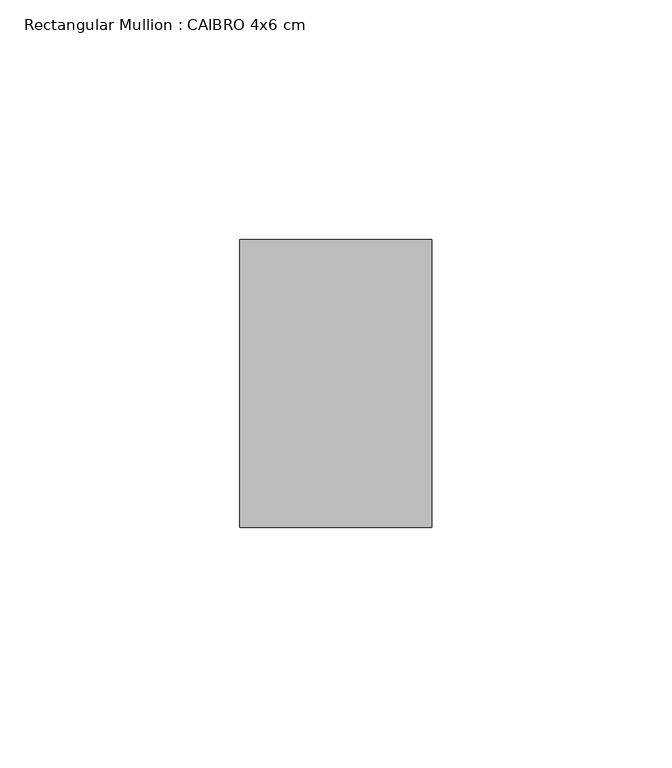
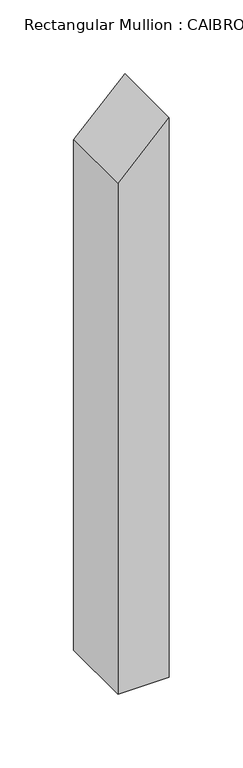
"""IFC4 building model written with IfcOpenShell, lengths in millimetres: member geometry, Rectangular Mullion : CAIBRO 4x6 cm."""

import ifcopenshell
import ifcopenshell.guid

model = None  # the IFC model being written
_history = None  # IfcOwnerHistory: only IFC2X3 demands one
_inside = {}  # id of a spatial element -> (the spatial element, [elements in it])
_under = {}  # id of a project, library or spatial element -> (it, [spatial elements below it])
_declared = {}  # id of a project -> (the project, [libraries it declares])
_typed = {}  # id of a type object -> (the type object, [elements of that type])
_made_of = {}  # id of a material, layer set ... -> (it, [elements and type objects made of it])


def new_model(schema):
    """Start an empty IFC model of exactly this schema.

    Asked for "IFC4X3", IfcOpenShell would pick the latest addendum, in which some entities
    have other attributes; the version numbers below select the first issue.
    IFC2X3 requires an IfcOwnerHistory on every rooted entity: one is made here for all.
    """
    global model, _history
    if schema == "IFC4X3":
        model = ifcopenshell.file(schema_version=(4, 3, 0, 0))
    else:
        model = ifcopenshell.file(schema=schema)
    _inside.clear()
    _under.clear()
    _declared.clear()
    _typed.clear()
    _made_of.clear()
    _history = None
    if model.schema == "IFC2X3":
        org = make("IfcOrganization", Name="unknown")
        user = make(
            "IfcPersonAndOrganization",
            ThePerson=make("IfcPerson", FamilyName="unknown"),
            TheOrganization=org,
        )
        app = make(
            "IfcApplication",
            ApplicationDeveloper=org,
            Version="unknown",
            ApplicationFullName="unknown",
            ApplicationIdentifier="unknown",
        )
        _history = make(
            "IfcOwnerHistory",
            OwningUser=user,
            OwningApplication=app,
            ChangeAction="ADDED",
            CreationDate=0,
        )
    return model


def make(cls, **values):
    """One entity of the class cls with the attributes given. An attribute that is None is left unset."""
    return model.create_entity(
        cls, **{name: value for name, value in values.items() if value is not None}
    )


def rooted(cls, **values):
    """An entity with a GlobalId (a new one), such as an element, a storey or a relation."""
    return make(cls, GlobalId=ifcopenshell.guid.new(), OwnerHistory=_history, **values)


def si_unit(unit_type, name, prefix=None):
    """IfcSIUnit, for example si_unit("LENGTHUNIT", "METRE", prefix="MILLI")."""
    return make("IfcSIUnit", UnitType=unit_type, Prefix=prefix, Name=name)


def assignment(units):
    """IfcUnitAssignment: the units of a project."""
    return None if units is None else make("IfcUnitAssignment", Units=units)


def point(xyz):
    """IfcCartesianPoint."""
    return None if xyz is None else make("IfcCartesianPoint", Coordinates=xyz)


def direction(xyz):
    """IfcDirection."""
    return None if xyz is None else make("IfcDirection", DirectionRatios=xyz)


def frame(location, z_axis=None, x_axis=None):
    """IfcAxis2Placement3D, a coordinate frame: its origin and axes. An axis left out is left unset."""
    return make(
        "IfcAxis2Placement3D",
        Location=point(location),
        Axis=direction(z_axis),
        RefDirection=direction(x_axis),
    )


def origin():
    """The frame at (0, 0, 0) with its axes left unset."""
    return frame((0.0, 0.0, 0.0))


def place(relative_to, where):
    """IfcLocalPlacement: puts the frame where relative to a parent placement (None: the world)."""
    return make(
        "IfcLocalPlacement", PlacementRelTo=relative_to, RelativePlacement=where
    )


def context(
    kind, dimensions, precision=None, world=None, true_north=None, identifier=None
):
    """IfcGeometricRepresentationContext, for example the 3D "Model" context."""
    return make(
        "IfcGeometricRepresentationContext",
        ContextIdentifier=identifier,
        ContextType=kind,
        CoordinateSpaceDimension=dimensions,
        Precision=precision,
        WorldCoordinateSystem=world,
        TrueNorth=true_north,
    )


def project(units=None, contexts=None):
    """IfcProject with its units and contexts."""
    return rooted(
        "IfcProject",
        Name="project",
        RepresentationContexts=contexts,
        UnitsInContext=assignment(units),
    )


def spatial(cls, under=None, at=None, **own):
    """A site, building, storey or space (cls), placed at a placement, below another one or the project."""
    s = rooted(cls, ObjectPlacement=at, **own)
    if under is not None:
        _under.setdefault(under.id(), (under, []))[1].append(s)
    return s


def polyline(points):
    """IfcPolyline through the points."""
    return make("IfcPolyline", Points=[point(p) for p in points])


def outline(outer, holes=None, kind="AREA"):
    """IfcArbitraryClosedProfileDef: a profile drawn as a closed curve; with holes, ...WithVoids."""
    if holes is None:
        return make("IfcArbitraryClosedProfileDef", ProfileType=kind, OuterCurve=outer)
    return make(
        "IfcArbitraryProfileDefWithVoids",
        ProfileType=kind,
        OuterCurve=outer,
        InnerCurves=holes,
    )


def extrude(swept, where, along, depth):
    """IfcExtrudedAreaSolid: the profile swept, set in the frame where, extruded along a direction by depth."""
    return make(
        "IfcExtrudedAreaSolid",
        SweptArea=swept,
        Position=where,
        ExtrudedDirection=direction(along),
        Depth=depth,
    )


def shape(context_of_items, identifier, shape_type, items):
    """IfcShapeRepresentation: the items that make up one representation, for example the "Body"."""
    return make(
        "IfcShapeRepresentation",
        ContextOfItems=context_of_items,
        RepresentationIdentifier=identifier,
        RepresentationType=shape_type,
        Items=items,
    )


def source(mapping_origin, context_of_items, identifier, shape_type, items):
    """IfcRepresentationMap: a shape defined once, which mapped items show again and again."""
    return make(
        "IfcRepresentationMap",
        MappingOrigin=mapping_origin,
        MappedRepresentation=shape(context_of_items, identifier, shape_type, items),
    )


def transform(
    local_origin,
    x_axis=None,
    y_axis=None,
    z_axis=None,
    scale=None,
    scale2=None,
    scale3=None,
    uniform=True,
):
    """IfcCartesianTransformationOperator3D, or its non-uniform kind. x_axis, y_axis, z_axis: its Axis1, 2, 3."""
    if uniform:
        return make(
            "IfcCartesianTransformationOperator3D",
            Axis1=direction(x_axis),
            Axis2=direction(y_axis),
            LocalOrigin=point(local_origin),
            Scale=scale,
            Axis3=direction(z_axis),
        )
    return make(
        "IfcCartesianTransformationOperator3DnonUniform",
        Axis1=direction(x_axis),
        Axis2=direction(y_axis),
        LocalOrigin=point(local_origin),
        Scale=scale,
        Axis3=direction(z_axis),
        Scale2=scale2,
        Scale3=scale3,
    )


def mapped(mapping_source, mapping_target):
    """IfcMappedItem: shows the shape of a source again, moved by a transform."""
    return make(
        "IfcMappedItem", MappingSource=mapping_source, MappingTarget=mapping_target
    )


def made_of(thing, what):
    """Note that an element or type object is made of a material, layer set ...; save() writes the relation."""
    if what is not None:
        _made_of.setdefault(what.id(), (what, []))[1].append(thing)
    return thing


def element(
    cls,
    number,
    at=None,
    inside=None,
    cuts=None,
    type_object=None,
    material=None,
    context=None,
    identifier="Body",
    shape_type=None,
    held_by="IfcProductDefinitionShape",
    body=None,
    shapes=None,
    **own,
):
    """One element of the class cls, such as IfcWall. Its Tag is "e" and its number.

    at: its placement. inside: the storey or other place that contains it. cuts: it is an
    opening in that element (IfcRelVoidsElement). A single representation is given by context,
    identifier, shape_type and body (its items); several are given by shapes. held_by: the class
    of the entity that holds the representations. save() writes the other relations.
    """
    e = rooted(cls, Tag="e%d" % number, ObjectPlacement=at, **own)
    if body is not None:
        shapes = [shape(context, identifier, shape_type, body)]
    if shapes is not None:
        e.Representation = make(held_by, Representations=shapes)
    if inside is not None:
        _inside.setdefault(inside.id(), (inside, []))[1].append(e)
    if cuts is not None:
        rooted(
            "IfcRelVoidsElement", RelatingBuildingElement=cuts, RelatedOpeningElement=e
        )
    if type_object is not None:
        _typed.setdefault(type_object.id(), (type_object, []))[1].append(e)
    return made_of(e, material)


def aggregate(whole, parts):
    """IfcRelAggregates: a whole, such as a stair, and the parts it consists of."""
    return rooted("IfcRelAggregates", RelatingObject=whole, RelatedObjects=parts)


def save(model, path):
    """Write the relations noted so far, then the file.

    IfcRelAggregates (storeys below a building ...), IfcRelContainedInSpatialStructure (elements
    in a storey), IfcRelDefinesByType, IfcRelAssociatesMaterial and IfcRelDeclares: one each for
    every whole, place, type object, material and project.
    """
    for whole, parts in _under.values():
        aggregate(whole, parts)
    for where, things in _inside.values():
        rooted(
            "IfcRelContainedInSpatialStructure",
            RelatedElements=things,
            RelatingStructure=where,
        )
    for kind, things in _typed.values():
        rooted("IfcRelDefinesByType", RelatedObjects=things, RelatingType=kind)
    for what, things in _made_of.values():
        rooted("IfcRelAssociatesMaterial", RelatedObjects=things, RelatingMaterial=what)
    for by, libraries in _declared.values():
        rooted("IfcRelDeclares", RelatingContext=by, RelatedDefinitions=libraries)
    model.write(path)


def rectangular_mullion_caibro_4x6_cm_5a20d9f2(model_context):
    return source(origin(), model_context, "Body", "SweptSolid", [
        extrude(outline(polyline([(-36.6621022, 20.0), (-77.109599, -20.0), (-498.3949162, -20.0), (-498.3949162, 20.0), (-36.6621022, 20.0)])), frame((0.0, 0.0, 0.0), z_axis=(0.0, 1.0, 0.0), x_axis=(0.0, 0.0, 1.0)), (0.0, 0.0, 1.0), 60.0),
    ])


if __name__ == "__main__":
    model = new_model("IFC4")
    model_context = context("Model", 3, world=origin())
    ifc_project = project(units=[si_unit("LENGTHUNIT", "METRE", prefix="MILLI")], contexts=[model_context])
    site = spatial("IfcSite", under=ifc_project)
    building = spatial("IfcBuilding", under=site)
    placement = place(None, origin())
    rectangular_mullion_caibro_4x6_cm_shape = rectangular_mullion_caibro_4x6_cm_5a20d9f2(model_context)
    element("IfcMember", 1, ObjectType="Rectangular Mullion : CAIBRO 4x6 cm", at=placement, inside=building, context=model_context, shape_type="MappedRepresentation", body=[
        mapped(rectangular_mullion_caibro_4x6_cm_shape, transform((0.0, 0.0, 0.0), x_axis=(1.0, 0.0, 0.0), y_axis=(0.0, 1.0, 0.0), z_axis=(0.0, 0.0, 1.0))),
    ])
    save(model, "model.ifc")
